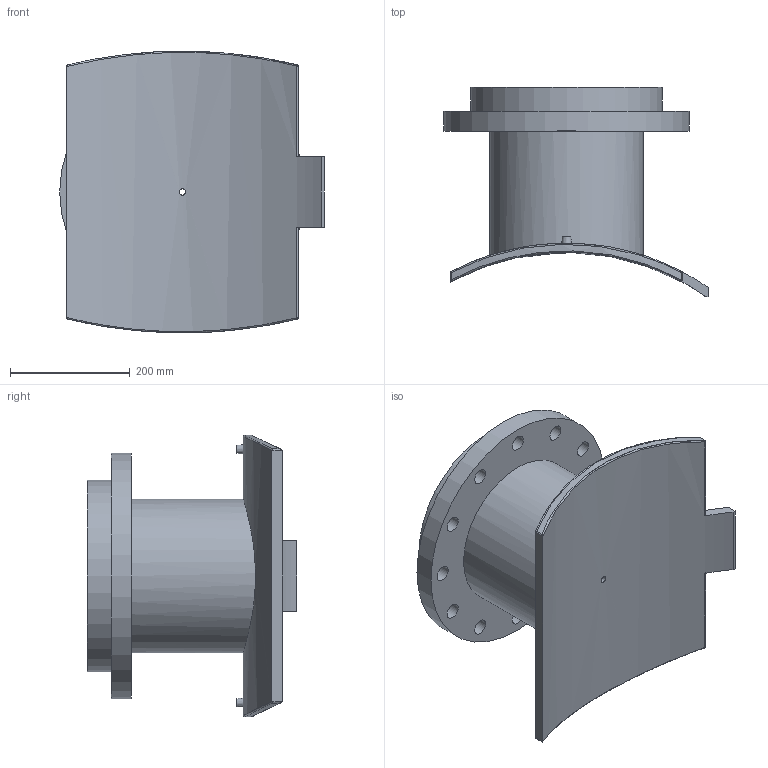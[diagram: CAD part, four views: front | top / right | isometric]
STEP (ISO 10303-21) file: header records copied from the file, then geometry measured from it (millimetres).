
FILE_DESCRIPTION(/* description */ ('PLASSON FLANGED BRANCH SADDLE 800X250'),/* implementation_level */ '2;1');
FILE_NAME(/* name */ 'C:\Dropbox\KIMPROJECTS-Inventor 2019\99-16-3568-Processing\ElectroFusion Fittings\495904_495903\stp\495903800250T.stp',/* time_stamp */ '2024-04-03T21:04:01+02:00',/* author */ ('KIM'),/* organization */ (''),/* preprocessor_version */ 'ST-DEVELOPER v17.2',/* originating_system */ 'Autodesk Inventor 2019',/* authorisation */ '');
FILE_SCHEMA (('AUTOMOTIVE_DESIGN { 1 0 10303 214 3 1 1 }'));
Length unit declared in the file: millimetre
Products named in the file (1): 495903800250T
Bounding box: 441.5 x 348.98 x 469.91 mm (x, y, z)
Volume: 11499112.9 mm3; surface area: 1014045 mm2
Topology: 1 solids, 1 shells, 62 faces, 163 edges, 126 vertices
Faces by surface type: cylinder 35, plane 17, sphere 4, bspline 4, cone 2
Full cylindrical faces by diameter (mm): 4 x2, 10 x2, 10.4 x1, 16 x1, 26 x12, 204 x1, 256 x1, 320 x1, 410 x1
Entity records: 2601 total; most frequent: CARTESIAN_POINT 973, DIRECTION 325, ORIENTED_EDGE 298, EDGE_CURVE 149, AXIS2_PLACEMENT_3D 137, VERTEX_POINT 100, EDGE_LOOP 99, CIRCLE 78
